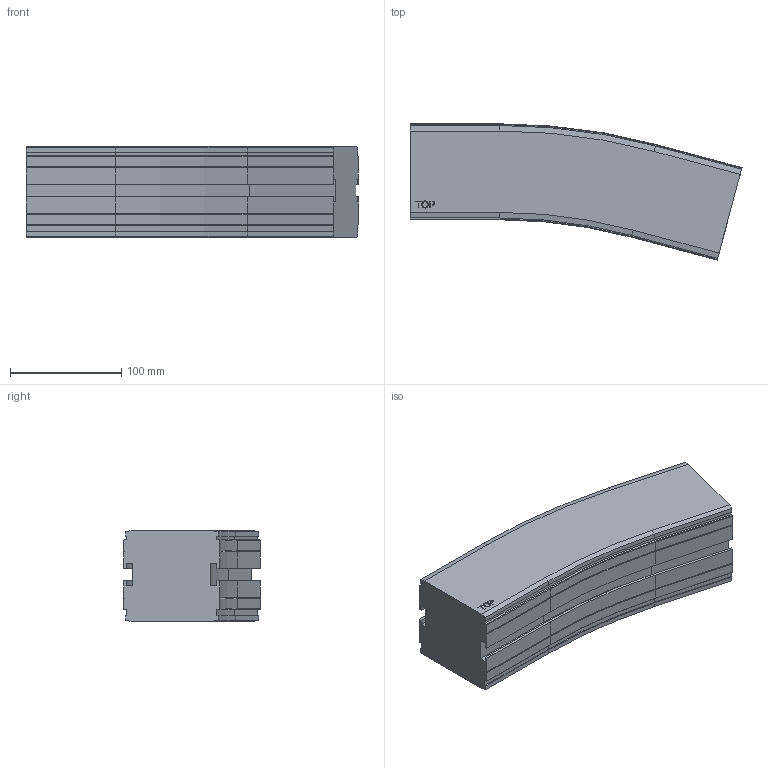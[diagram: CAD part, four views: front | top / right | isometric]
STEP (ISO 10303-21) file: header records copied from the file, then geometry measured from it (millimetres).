
FILE_DESCRIPTION((''),'2;1');
FILE_NAME('C:\Vault Klient\Projekt\Koncept konstruktion\Serie 830 Balk\830-5280.stp','2009-11-27T10:00:26',('Mathias'),(''),'Autodesk Inventor 2010','Autodesk Inventor 2010','');
FILE_SCHEMA(('AUTOMOTIVE_DESIGN { 1 0 10303 214 1 1 1 1 }'));
Length unit declared in the file: millimetre
Products named in the file (1): 830-5280
Bounding box: 297.81 x 122.28 x 81.5 mm (x, y, z)
Volume: 1933574 mm3; surface area: 132162.3 mm2
Topology: 1 solids, 1 shells, 169 faces, 446 edges, 284 vertices
Faces by surface type: plane 109, cylinder 30, bspline 14, cone 12, torus 4
Entity records: 5295 total; most frequent: CARTESIAN_POINT 1094, ORIENTED_EDGE 892, DIRECTION 802, EDGE_CURVE 446, VECTOR 346, LINE 346, VERTEX_POINT 284, AXIS2_PLACEMENT_3D 228
